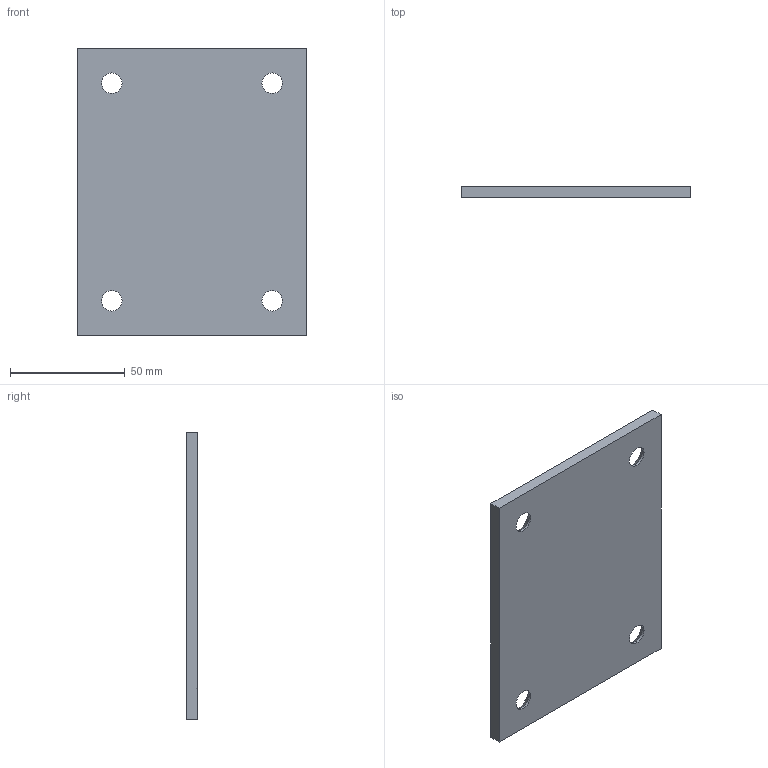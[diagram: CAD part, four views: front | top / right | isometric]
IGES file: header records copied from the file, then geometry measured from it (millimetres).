
Start section: Data from Parasolid IGES Translator 20.0.26, Copyright(c) 2006 Siemens P LM Software. All Rights Reserved.
Global section: file name: P605-01-100-125.igs; native system: By Siemens PLM Incorporated; preprocessor: XPlus GENERIC/IGES 20.0.26; author: Noname; organization: Noname; date: 20190705.150157; units: millimetre
Bounding box: 100 x 5 x 125 mm (x, y, z)
Surface area: 27124.8 mm2 (no closed solid volume)
Topology: 0 solids, 0 shells, 14 faces, 64 edges, 56 vertices
Faces by surface type: revolution 8, extrusion 6
